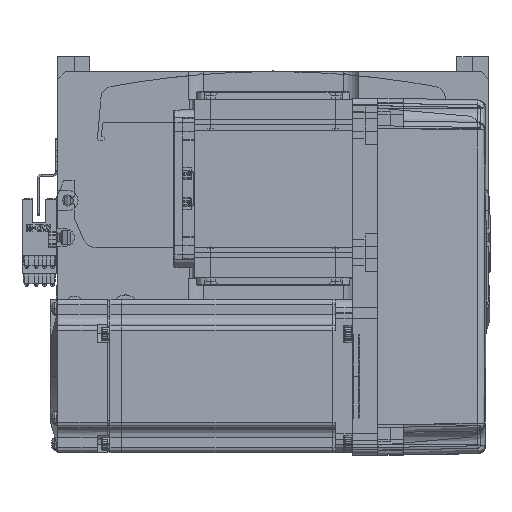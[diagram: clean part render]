
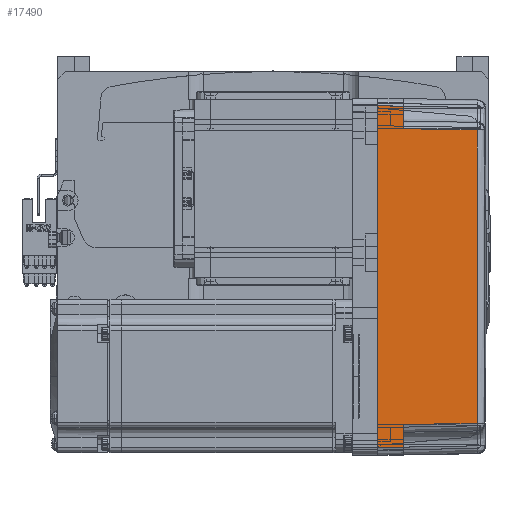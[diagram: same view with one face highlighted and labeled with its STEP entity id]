
A CAD part, top view. The second image highlights one B-rep face of the part: STEP entity #17490.
In plain terms, the highlighted planar face has unit normal (0.018, 0, 1) as drawn and (0, 1, 0.017) by its records, which use the part's own axes.
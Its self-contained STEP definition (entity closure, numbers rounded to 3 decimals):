
#576 = CARTESIAN_POINT ( 'NONE',  ( 66.826, 35.825, 10. ) ) ;
#849 = EDGE_CURVE ( 'NONE', #51461, #14020, #49653, .T. ) ;
#1386 = ORIENTED_EDGE ( 'NONE', *, *, #53185, .T. ) ;
#1914 = VERTEX_POINT ( 'NONE', #57391 ) ;
#2218 = AXIS2_PLACEMENT_3D ( 'NONE', #8333, #19780, #42895 ) ;
#3014 = EDGE_CURVE ( 'NONE', #1914, #72092, #51175, .T. ) ;
#3211 = ORIENTED_EDGE ( 'NONE', *, *, #67109, .F. ) ;
#4150 = VECTOR ( 'NONE', #17853, 1000. ) ;
#4336 = EDGE_LOOP ( 'NONE', ( #1386, #67938, #24243, #55793, #55259, #58890, #3211, #48393 ) ) ;
#5693 = LINE ( 'NONE', #50350, #31565 ) ;
#8333 = CARTESIAN_POINT ( 'NONE',  ( 70., 36., 0. ) ) ;
#9107 = DIRECTION ( 'NONE',  ( 0.017, 0.017, -1. ) ) ;
#10970 = CARTESIAN_POINT ( 'NONE',  ( 70., 35.825, 10. ) ) ;
#12234 = CARTESIAN_POINT ( 'NONE',  ( 19.165, 35.316, 39.181 ) ) ;
#13008 = VERTEX_POINT ( 'NONE', #51311 ) ;
#14020 = VERTEX_POINT ( 'NONE', #28579 ) ;
#16308 = EDGE_CURVE ( 'NONE', #67653, #13008, #5693, .T. ) ;
#16630 = CARTESIAN_POINT ( 'NONE',  ( -58., 35.825, 10. ) ) ;
#16694 = VECTOR ( 'NONE', #52188, 1000. ) ;
#17490 = ADVANCED_FACE ( 'NONE', ( #61016 ), #55040, .T. ) ;
#17853 = DIRECTION ( 'NONE',  ( 1., 0., 0. ) ) ;
#18392 = CARTESIAN_POINT ( 'NONE',  ( -66.826, 35.825, 10. ) ) ;
#18538 = LINE ( 'NONE', #10970, #16694 ) ;
#19276 = VECTOR ( 'NONE', #25155, 1000. ) ;
#19780 = DIRECTION ( 'NONE',  ( 0., 1., 0.017 ) ) ;
#20905 = B_SPLINE_CURVE_WITH_KNOTS ( 'NONE', 3,
 ( #53945, #47245, #12234, #35215 ),
 .UNSPECIFIED., .F., .F.,
 ( 4, 4 ),
 ( 0., 1. ),
 .UNSPECIFIED. ) ;
#24243 = ORIENTED_EDGE ( 'NONE', *, *, #849, .T. ) ;
#25155 = DIRECTION ( 'NONE',  ( 0.017, -0.017, 1. ) ) ;
#28579 = CARTESIAN_POINT ( 'NONE',  ( -57.495, 35.32, 38.985 ) ) ;
#30897 = DIRECTION ( 'NONE',  ( -0.017, -0.017, 1. ) ) ;
#31565 = VECTOR ( 'NONE', #9107, 1000. ) ;
#33369 = VERTEX_POINT ( 'NONE', #18392 ) ;
#35215 = CARTESIAN_POINT ( 'NONE',  ( 57.495, 35.32, 38.985 ) ) ;
#35876 = CARTESIAN_POINT ( 'NONE',  ( 0., 36., 0. ) ) ;
#36969 = CARTESIAN_POINT ( 'NONE',  ( 57.495, 35.32, 38.985 ) ) ;
#42255 = DIRECTION ( 'NONE',  ( 1., 0., 0. ) ) ;
#42838 = LINE ( 'NONE', #47914, #49262 ) ;
#42895 = DIRECTION ( 'NONE',  ( 0., -0.017, 1. ) ) ;
#47245 = CARTESIAN_POINT ( 'NONE',  ( -19.165, 35.316, 39.181 ) ) ;
#47914 = CARTESIAN_POINT ( 'NONE',  ( 70., 35.825, 10. ) ) ;
#48228 = CARTESIAN_POINT ( 'NONE',  ( -58., 35.825, 10. ) ) ;
#48393 = ORIENTED_EDGE ( 'NONE', *, *, #3014, .F. ) ;
#49262 = VECTOR ( 'NONE', #42255, 1000. ) ;
#49653 = LINE ( 'NONE', #48228, #19276 ) ;
#50095 = LINE ( 'NONE', #51590, #68540 ) ;
#50350 = CARTESIAN_POINT ( 'NONE',  ( 57.495, 35.32, 38.985 ) ) ;
#51175 = LINE ( 'NONE', #35876, #4150 ) ;
#51311 = CARTESIAN_POINT ( 'NONE',  ( 58., 35.825, 10. ) ) ;
#51461 = VERTEX_POINT ( 'NONE', #16630 ) ;
#51590 = CARTESIAN_POINT ( 'NONE',  ( -67., 36., 0. ) ) ;
#52188 = DIRECTION ( 'NONE',  ( 1., 0., 0. ) ) ;
#52358 = VERTEX_POINT ( 'NONE', #576 ) ;
#53185 = EDGE_CURVE ( 'NONE', #1914, #33369, #50095, .T. ) ;
#53945 = CARTESIAN_POINT ( 'NONE',  ( -57.495, 35.32, 38.985 ) ) ;
#55040 = PLANE ( 'NONE',  #2218 ) ;
#55259 = ORIENTED_EDGE ( 'NONE', *, *, #16308, .T. ) ;
#55793 = ORIENTED_EDGE ( 'NONE', *, *, #63158, .T. ) ;
#57391 = CARTESIAN_POINT ( 'NONE',  ( -67., 36., 0. ) ) ;
#58890 = ORIENTED_EDGE ( 'NONE', *, *, #68008, .T. ) ;
#60946 = CARTESIAN_POINT ( 'NONE',  ( 67., 36., 0. ) ) ;
#61016 = FACE_OUTER_BOUND ( 'NONE', #4336, .T. ) ;
#62494 = VECTOR ( 'NONE', #30897, 1000. ) ;
#63158 = EDGE_CURVE ( 'NONE', #14020, #67653, #20905, .T. ) ;
#66178 = CARTESIAN_POINT ( 'NONE',  ( 67.001, 36.001, -0.052 ) ) ;
#67109 = EDGE_CURVE ( 'NONE', #72092, #52358, #74416, .T. ) ;
#67653 = VERTEX_POINT ( 'NONE', #36969 ) ;
#67938 = ORIENTED_EDGE ( 'NONE', *, *, #76028, .T. ) ;
#68008 = EDGE_CURVE ( 'NONE', #13008, #52358, #42838, .T. ) ;
#68540 = VECTOR ( 'NONE', #69169, 1000. ) ;
#69169 = DIRECTION ( 'NONE',  ( 0.017, -0.017, 1. ) ) ;
#72092 = VERTEX_POINT ( 'NONE', #60946 ) ;
#74416 = LINE ( 'NONE', #66178, #62494 ) ;
#76028 = EDGE_CURVE ( 'NONE', #33369, #51461, #18538, .T. ) ;
